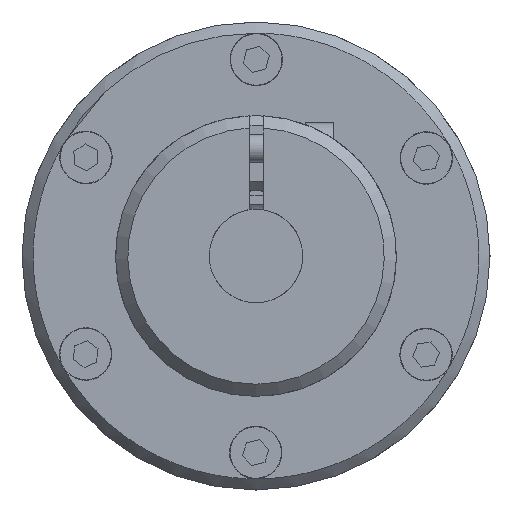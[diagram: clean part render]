
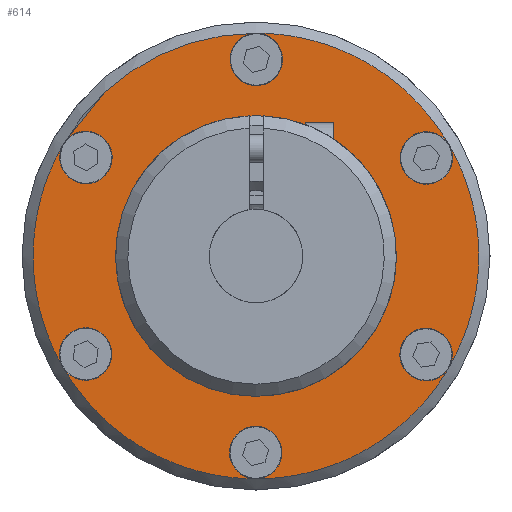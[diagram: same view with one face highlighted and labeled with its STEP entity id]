
A CAD part, left-side view. The second image highlights one B-rep face of the part: STEP entity #614.
In plain terms, the highlighted planar face has unit normal (-1, 0, 0).
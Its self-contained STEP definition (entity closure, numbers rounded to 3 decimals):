
#614 = ADVANCED_FACE( '', ( #1122, #1123 ), #1124, .F. );
#1122 = FACE_OUTER_BOUND( '', #1882, .T. );
#1123 = FACE_BOUND( '', #1883, .T. );
#1124 = PLANE( '', #1884 );
#1882 = EDGE_LOOP( '', ( #3003, #3004, #3005, #3006, #3007, #3008, #3009, #3010, #3011, #3012, #3013, #3014 ) );
#1883 = EDGE_LOOP( '', ( #3015, #3016, #3017, #3018, #3019, #3020, #3021, #3022 ) );
#1884 = AXIS2_PLACEMENT_3D( '', #3023, #3024, #3025 );
#3003 = ORIENTED_EDGE( '', *, *, #4494, .T. );
#3004 = ORIENTED_EDGE( '', *, *, #4463, .T. );
#3005 = ORIENTED_EDGE( '', *, *, #4495, .T. );
#3006 = ORIENTED_EDGE( '', *, *, #4496, .T. );
#3007 = ORIENTED_EDGE( '', *, *, #4497, .T. );
#3008 = ORIENTED_EDGE( '', *, *, #4498, .T. );
#3009 = ORIENTED_EDGE( '', *, *, #4499, .T. );
#3010 = ORIENTED_EDGE( '', *, *, #4462, .T. );
#3011 = ORIENTED_EDGE( '', *, *, #4500, .T. );
#3012 = ORIENTED_EDGE( '', *, *, #4501, .T. );
#3013 = ORIENTED_EDGE( '', *, *, #4502, .T. );
#3014 = ORIENTED_EDGE( '', *, *, #4448, .T. );
#3015 = ORIENTED_EDGE( '', *, *, #4458, .F. );
#3016 = ORIENTED_EDGE( '', *, *, #4455, .F. );
#3017 = ORIENTED_EDGE( '', *, *, #4493, .F. );
#3018 = ORIENTED_EDGE( '', *, *, #4472, .F. );
#3019 = ORIENTED_EDGE( '', *, *, #4428, .F. );
#3020 = ORIENTED_EDGE( '', *, *, #4475, .F. );
#3021 = ORIENTED_EDGE( '', *, *, #4492, .F. );
#3022 = ORIENTED_EDGE( '', *, *, #4469, .F. );
#3023 = CARTESIAN_POINT( '', ( -10., 25., 0. ) );
#3024 = DIRECTION( '', ( 1., 0., 0. ) );
#3025 = DIRECTION( '', ( 0., 1., 0. ) );
#4428 = EDGE_CURVE( '', #5074, #5070, #5076, .F. );
#4448 = EDGE_CURVE( '', #5109, #5109, #5110, .T. );
#4455 = EDGE_CURVE( '', #5122, #5117, #5124, .T. );
#4458 = EDGE_CURVE( '', #5117, #5126, #5129, .F. );
#4462 = EDGE_CURVE( '', #5136, #5136, #5137, .T. );
#4463 = EDGE_CURVE( '', #5138, #5138, #5139, .T. );
#4469 = EDGE_CURVE( '', #5126, #5145, #5149, .T. );
#4472 = EDGE_CURVE( '', #5070, #5150, #5154, .T. );
#4475 = EDGE_CURVE( '', #5157, #5074, #5159, .T. );
#4492 = EDGE_CURVE( '', #5145, #5157, #5185, .F. );
#4493 = EDGE_CURVE( '', #5150, #5122, #5186, .F. );
#4494 = EDGE_CURVE( '', #5109, #5138, #5187, .F. );
#4495 = EDGE_CURVE( '', #5138, #5188, #5189, .F. );
#4496 = EDGE_CURVE( '', #5188, #5188, #5190, .T. );
#4497 = EDGE_CURVE( '', #5188, #5191, #5192, .F. );
#4498 = EDGE_CURVE( '', #5191, #5191, #5193, .T. );
#4499 = EDGE_CURVE( '', #5191, #5136, #5194, .F. );
#4500 = EDGE_CURVE( '', #5136, #5195, #5196, .F. );
#4501 = EDGE_CURVE( '', #5195, #5195, #5197, .T. );
#4502 = EDGE_CURVE( '', #5195, #5109, #5198, .F. );
#5070 = VERTEX_POINT( '', #6167 );
#5074 = VERTEX_POINT( '', #6172 );
#5076 = CIRCLE( '', #6175, 15. );
#5109 = VERTEX_POINT( '', #6208 );
#5110 = CIRCLE( '', #6209, 2.8 );
#5117 = VERTEX_POINT( '', #6216 );
#5122 = VERTEX_POINT( '', #6222 );
#5124 = CIRCLE( '', #6225, 16.5 );
#5126 = VERTEX_POINT( '', #6227 );
#5129 = CIRCLE( '', #6231, 15. );
#5136 = VERTEX_POINT( '', #6238 );
#5137 = CIRCLE( '', #6239, 2.8 );
#5138 = VERTEX_POINT( '', #6240 );
#5139 = CIRCLE( '', #6241, 2.8 );
#5145 = VERTEX_POINT( '', #6253 );
#5149 = CIRCLE( '', #6258, 16.5 );
#5150 = VERTEX_POINT( '', #6259 );
#5154 = CIRCLE( '', #6264, 16.5 );
#5157 = VERTEX_POINT( '', #6267 );
#5159 = CIRCLE( '', #6270, 16.5 );
#5185 = CIRCLE( '', #6314, 7. );
#5186 = CIRCLE( '', #6315, 7. );
#5187 = CIRCLE( '', #6316, 23.8 );
#5188 = VERTEX_POINT( '', #6317 );
#5189 = CIRCLE( '', #6318, 23.8 );
#5190 = CIRCLE( '', #6319, 2.8 );
#5191 = VERTEX_POINT( '', #6320 );
#5192 = CIRCLE( '', #6321, 23.8 );
#5193 = CIRCLE( '', #6322, 2.8 );
#5194 = CIRCLE( '', #6323, 23.8 );
#5195 = VERTEX_POINT( '', #6324 );
#5196 = CIRCLE( '', #6325, 23.8 );
#5197 = CIRCLE( '', #6326, 2.8 );
#5198 = CIRCLE( '', #6327, 23.8 );
#6167 = CARTESIAN_POINT( '', ( -10., 6.818, 13.361 ) );
#6172 = CARTESIAN_POINT( '', ( -10., -6.818, 13.361 ) );
#6175 = AXIS2_PLACEMENT_3D( '', #7632, #7633, #7634 );
#6208 = CARTESIAN_POINT( '', ( -10., 0., 23.8 ) );
#6209 = AXIS2_PLACEMENT_3D( '', #7692, #7693, #7694 );
#6216 = CARTESIAN_POINT( '', ( -10., 6.818, -13.361 ) );
#6222 = CARTESIAN_POINT( '', ( -10., 1.485, -6.841 ) );
#6225 = AXIS2_PLACEMENT_3D( '', #7709, #7710, #7711 );
#6227 = CARTESIAN_POINT( '', ( -10., -6.818, -13.361 ) );
#6231 = AXIS2_PLACEMENT_3D( '', #7716, #7717, #7718 );
#6238 = CARTESIAN_POINT( '', ( -10., -20.611, -11.9 ) );
#6239 = AXIS2_PLACEMENT_3D( '', #7728, #7729, #7730 );
#6240 = CARTESIAN_POINT( '', ( -10., 20.611, 11.9 ) );
#6241 = AXIS2_PLACEMENT_3D( '', #7731, #7732, #7733 );
#6253 = CARTESIAN_POINT( '', ( -10., -1.485, -6.841 ) );
#6258 = AXIS2_PLACEMENT_3D( '', #7741, #7742, #7743 );
#6259 = CARTESIAN_POINT( '', ( -10., 1.485, 6.841 ) );
#6264 = AXIS2_PLACEMENT_3D( '', #7748, #7749, #7750 );
#6267 = CARTESIAN_POINT( '', ( -10., -1.485, 6.841 ) );
#6270 = AXIS2_PLACEMENT_3D( '', #7755, #7756, #7757 );
#6314 = AXIS2_PLACEMENT_3D( '', #7788, #7789, #7790 );
#6315 = AXIS2_PLACEMENT_3D( '', #7791, #7792, #7793 );
#6316 = AXIS2_PLACEMENT_3D( '', #7794, #7795, #7796 );
#6317 = CARTESIAN_POINT( '', ( -10., 20.611, -11.9 ) );
#6318 = AXIS2_PLACEMENT_3D( '', #7797, #7798, #7799 );
#6319 = AXIS2_PLACEMENT_3D( '', #7800, #7801, #7802 );
#6320 = CARTESIAN_POINT( '', ( -10., 0., -23.8 ) );
#6321 = AXIS2_PLACEMENT_3D( '', #7803, #7804, #7805 );
#6322 = AXIS2_PLACEMENT_3D( '', #7806, #7807, #7808 );
#6323 = AXIS2_PLACEMENT_3D( '', #7809, #7810, #7811 );
#6324 = CARTESIAN_POINT( '', ( -10., -20.611, 11.9 ) );
#6325 = AXIS2_PLACEMENT_3D( '', #7812, #7813, #7814 );
#6326 = AXIS2_PLACEMENT_3D( '', #7815, #7816, #7817 );
#6327 = AXIS2_PLACEMENT_3D( '', #7818, #7819, #7820 );
#7632 = CARTESIAN_POINT( '', ( -10., 0., 0. ) );
#7633 = DIRECTION( '', ( 1., 0., 0. ) );
#7634 = DIRECTION( '', ( 0., 0., -1. ) );
#7692 = CARTESIAN_POINT( '', ( -10., 0., 21. ) );
#7693 = DIRECTION( '', ( 1., 0., 0. ) );
#7694 = DIRECTION( '', ( 0., 0., -1. ) );
#7709 = CARTESIAN_POINT( '', ( -10., 16.5, 0. ) );
#7710 = DIRECTION( '', ( 1., 0., 0. ) );
#7711 = DIRECTION( '', ( 0., 0., -1. ) );
#7716 = CARTESIAN_POINT( '', ( -10., 0., 0. ) );
#7717 = DIRECTION( '', ( 1., 0., 0. ) );
#7718 = DIRECTION( '', ( 0., 0., -1. ) );
#7728 = CARTESIAN_POINT( '', ( -10., -18.187, -10.5 ) );
#7729 = DIRECTION( '', ( 1., 0., 0. ) );
#7730 = DIRECTION( '', ( 0., 0., -1. ) );
#7731 = CARTESIAN_POINT( '', ( -10., 18.187, 10.5 ) );
#7732 = DIRECTION( '', ( 1., 0., 0. ) );
#7733 = DIRECTION( '', ( 0., 0., -1. ) );
#7741 = CARTESIAN_POINT( '', ( -10., -16.5, 0. ) );
#7742 = DIRECTION( '', ( 1., 0., 0. ) );
#7743 = DIRECTION( '', ( 0., 0., -1. ) );
#7748 = CARTESIAN_POINT( '', ( -10., 16.5, 0. ) );
#7749 = DIRECTION( '', ( 1., 0., 0. ) );
#7750 = DIRECTION( '', ( 0., 0., -1. ) );
#7755 = CARTESIAN_POINT( '', ( -10., -16.5, 0. ) );
#7756 = DIRECTION( '', ( 1., 0., 0. ) );
#7757 = DIRECTION( '', ( 0., 0., -1. ) );
#7788 = CARTESIAN_POINT( '', ( -10., 0., 0. ) );
#7789 = DIRECTION( '', ( 1., 0., 0. ) );
#7790 = DIRECTION( '', ( 0., 0., -1. ) );
#7791 = CARTESIAN_POINT( '', ( -10., 0., 0. ) );
#7792 = DIRECTION( '', ( 1., 0., 0. ) );
#7793 = DIRECTION( '', ( 0., 0., -1. ) );
#7794 = CARTESIAN_POINT( '', ( -10., 0., 0. ) );
#7795 = DIRECTION( '', ( 1., 0., 0. ) );
#7796 = DIRECTION( '', ( 0., 0., -1. ) );
#7797 = CARTESIAN_POINT( '', ( -10., 0., 0. ) );
#7798 = DIRECTION( '', ( 1., 0., 0. ) );
#7799 = DIRECTION( '', ( 0., 0., -1. ) );
#7800 = CARTESIAN_POINT( '', ( -10., 18.187, -10.5 ) );
#7801 = DIRECTION( '', ( 1., 0., 0. ) );
#7802 = DIRECTION( '', ( 0., 0., -1. ) );
#7803 = CARTESIAN_POINT( '', ( -10., 0., 0. ) );
#7804 = DIRECTION( '', ( 1., 0., 0. ) );
#7805 = DIRECTION( '', ( 0., 0., -1. ) );
#7806 = CARTESIAN_POINT( '', ( -10., 0., -21. ) );
#7807 = DIRECTION( '', ( 1., 0., 0. ) );
#7808 = DIRECTION( '', ( 0., 0., -1. ) );
#7809 = CARTESIAN_POINT( '', ( -10., 0., 0. ) );
#7810 = DIRECTION( '', ( 1., 0., 0. ) );
#7811 = DIRECTION( '', ( 0., 0., -1. ) );
#7812 = CARTESIAN_POINT( '', ( -10., 0., 0. ) );
#7813 = DIRECTION( '', ( 1., 0., 0. ) );
#7814 = DIRECTION( '', ( 0., 0., -1. ) );
#7815 = CARTESIAN_POINT( '', ( -10., -18.187, 10.5 ) );
#7816 = DIRECTION( '', ( 1., 0., 0. ) );
#7817 = DIRECTION( '', ( 0., 0., -1. ) );
#7818 = CARTESIAN_POINT( '', ( -10., 0., 0. ) );
#7819 = DIRECTION( '', ( 1., 0., 0. ) );
#7820 = DIRECTION( '', ( 0., 0., -1. ) );
